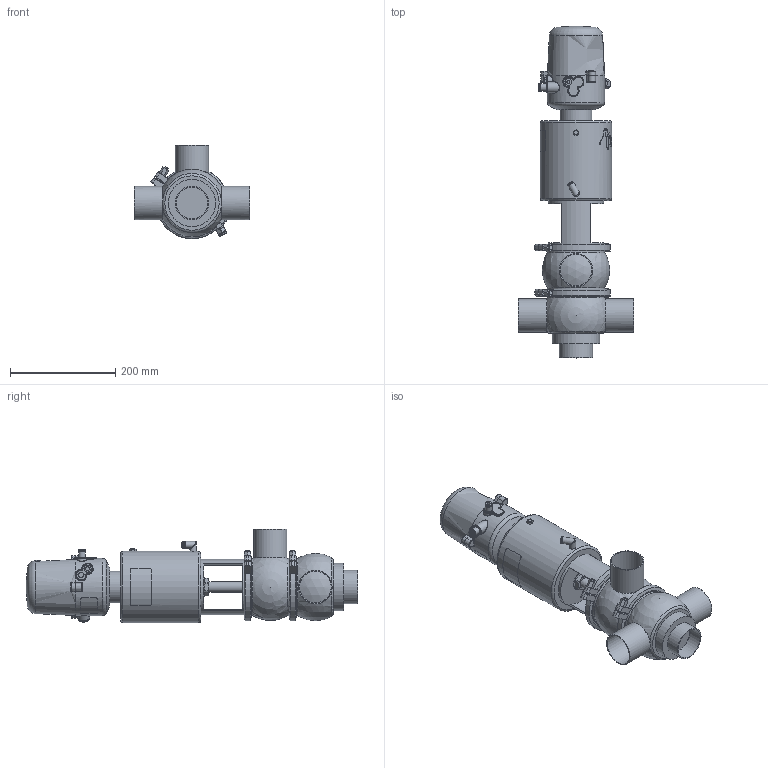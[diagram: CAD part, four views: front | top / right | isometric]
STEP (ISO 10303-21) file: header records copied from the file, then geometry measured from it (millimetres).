
FILE_DESCRIPTION (( 'STEP AP214' ), '1' );
FILE_NAME ('INNOVA K F W OD 2½ T3 AS NC & C-TOP S_10.240.16.0079.STEP', '2024-08-06T09:12:30', ( '' ), ( '' ), 'SwSTEP 2.0', 'SolidWorks 2023', '' );
FILE_SCHEMA (( 'AUTOMOTIVE_DESIGN' ));
Length unit declared in the file: millimetre
Products named in the file (8): 10.240.15.0006_OD 2½"; 10.240.15.0001_DN 065; 10.240.15.0014_T3 AS P0; 10.426.15.0001_C-TOP S - 1 EV; 10.240.15.0010_DN 065; 10.240.15.0003_OD 2½"; 10.240.15.0017_Estàndard; INNOVA K F W OD 2½ T3 AS NC & C-TOP S_10.240.16.0079
Assembly tree (8 placements, depth 2):
  INNOVA K F W OD 2½ T3 AS NC & C-TOP S_10.240.16.0079
    10.240.15.0006_OD 2½"
    10.240.15.0003_OD 2½"
    10.240.15.0010_DN 065
    10.240.15.0014_T3 AS P0
    10.240.15.0017_Estàndard
    10.426.15.0001_C-TOP S - 1 EV
    10.240.15.0001_DN 065  x2
Bounding box: 220 x 631.5 x 178 mm (x, y, z)
Volume: 5976720.3 mm3; surface area: 486016.7 mm2
Topology: 8 solids, 8 shells, 1176 faces, 2844 edges, 1894 vertices
Faces by surface type: plane 411, cylinder 358, cone 201, bspline 160, torus 37, sphere 9
Full cylindrical faces by diameter (mm): 0.371 x17, 0.512 x16, 0.658 x16, 0.795 x16, 0.94 x15, 1.098 x15, 1.241 x13, 1.382 x13, 1.523 x11, 1.669 x10, 2.201 x1, 4 x2, 5.5 x2, 6 x2, 6.15 x1, 8 x6, 8.5 x1, 10 x1, 10.5 x1, 11 x2, 12.5 x3, 13 x2, 13.5 x2, 16 x1, 17 x3, 20 x3, 20.5 x1, 22 x2, 31 x1, 34.5 x3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
Entity records: 58153 total; most frequent: CARTESIAN_POINT 27878, ORIENTED_EDGE 4522, DIRECTION 3665, EDGE_CURVE 2261, VERTEX_POINT 1610, EDGE_LOOP 1577, AXIS2_PLACEMENT_3D 1504, FACE_OUTER_BOUND 1337
